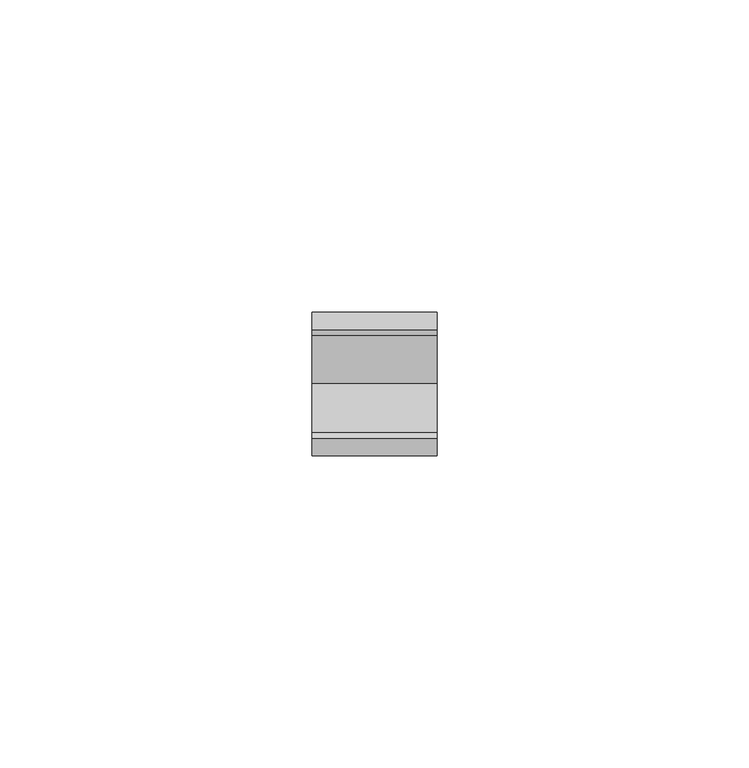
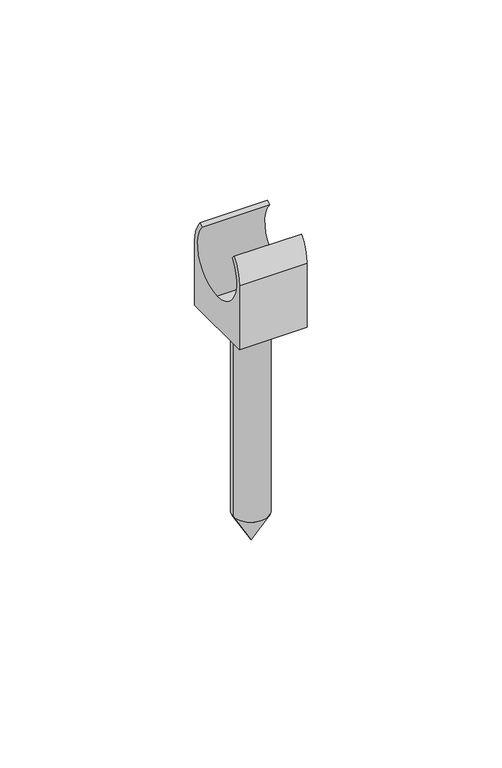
"""IFC4 building model written with IfcOpenShell, lengths in millimetres: cable carrier fitting geometry, Держатель с защелкой и дюбелем CT : CTA10D-CT20-K41-100."""

import ifcopenshell
import ifcopenshell.guid

model = None  # the IFC model being written
_history = None  # IfcOwnerHistory: only IFC2X3 demands one
_inside = {}  # id of a spatial element -> (the spatial element, [elements in it])
_under = {}  # id of a project, library or spatial element -> (it, [spatial elements below it])
_declared = {}  # id of a project -> (the project, [libraries it declares])
_typed = {}  # id of a type object -> (the type object, [elements of that type])
_made_of = {}  # id of a material, layer set ... -> (it, [elements and type objects made of it])


def new_model(schema):
    """Start an empty IFC model of exactly this schema.

    Asked for "IFC4X3", IfcOpenShell would pick the latest addendum, in which some entities
    have other attributes; the version numbers below select the first issue.
    IFC2X3 requires an IfcOwnerHistory on every rooted entity: one is made here for all.
    """
    global model, _history
    if schema == "IFC4X3":
        model = ifcopenshell.file(schema_version=(4, 3, 0, 0))
    else:
        model = ifcopenshell.file(schema=schema)
    _inside.clear()
    _under.clear()
    _declared.clear()
    _typed.clear()
    _made_of.clear()
    _history = None
    if model.schema == "IFC2X3":
        org = make("IfcOrganization", Name="unknown")
        user = make(
            "IfcPersonAndOrganization",
            ThePerson=make("IfcPerson", FamilyName="unknown"),
            TheOrganization=org,
        )
        app = make(
            "IfcApplication",
            ApplicationDeveloper=org,
            Version="unknown",
            ApplicationFullName="unknown",
            ApplicationIdentifier="unknown",
        )
        _history = make(
            "IfcOwnerHistory",
            OwningUser=user,
            OwningApplication=app,
            ChangeAction="ADDED",
            CreationDate=0,
        )
    return model


def make(cls, **values):
    """One entity of the class cls with the attributes given. An attribute that is None is left unset."""
    return model.create_entity(
        cls, **{name: value for name, value in values.items() if value is not None}
    )


def rooted(cls, **values):
    """An entity with a GlobalId (a new one), such as an element, a storey or a relation."""
    return make(cls, GlobalId=ifcopenshell.guid.new(), OwnerHistory=_history, **values)


def si_unit(unit_type, name, prefix=None):
    """IfcSIUnit, for example si_unit("LENGTHUNIT", "METRE", prefix="MILLI")."""
    return make("IfcSIUnit", UnitType=unit_type, Prefix=prefix, Name=name)


def assignment(units):
    """IfcUnitAssignment: the units of a project."""
    return None if units is None else make("IfcUnitAssignment", Units=units)


def point(xyz):
    """IfcCartesianPoint."""
    return None if xyz is None else make("IfcCartesianPoint", Coordinates=xyz)


def direction(xyz):
    """IfcDirection."""
    return None if xyz is None else make("IfcDirection", DirectionRatios=xyz)


def frame(location, z_axis=None, x_axis=None):
    """IfcAxis2Placement3D, a coordinate frame: its origin and axes. An axis left out is left unset."""
    return make(
        "IfcAxis2Placement3D",
        Location=point(location),
        Axis=direction(z_axis),
        RefDirection=direction(x_axis),
    )


def frame_2d(location, x_axis=None):
    """IfcAxis2Placement2D, a coordinate frame in the plane: its origin and x axis."""
    return make(
        "IfcAxis2Placement2D", Location=point(location), RefDirection=direction(x_axis)
    )


def origin():
    """The frame at (0, 0, 0) with its axes left unset."""
    return frame((0.0, 0.0, 0.0))


def origin_2d():
    """The frame at (0, 0) in the plane with its x axis left unset."""
    return frame_2d((0.0, 0.0))


def place(relative_to, where):
    """IfcLocalPlacement: puts the frame where relative to a parent placement (None: the world)."""
    return make(
        "IfcLocalPlacement", PlacementRelTo=relative_to, RelativePlacement=where
    )


def context(
    kind, dimensions, precision=None, world=None, true_north=None, identifier=None
):
    """IfcGeometricRepresentationContext, for example the 3D "Model" context."""
    return make(
        "IfcGeometricRepresentationContext",
        ContextIdentifier=identifier,
        ContextType=kind,
        CoordinateSpaceDimension=dimensions,
        Precision=precision,
        WorldCoordinateSystem=world,
        TrueNorth=true_north,
    )


def project(units=None, contexts=None):
    """IfcProject with its units and contexts."""
    return rooted(
        "IfcProject",
        Name="project",
        RepresentationContexts=contexts,
        UnitsInContext=assignment(units),
    )


def spatial(cls, under=None, at=None, **own):
    """A site, building, storey or space (cls), placed at a placement, below another one or the project."""
    s = rooted(cls, ObjectPlacement=at, **own)
    if under is not None:
        _under.setdefault(under.id(), (under, []))[1].append(s)
    return s


def polyline(points):
    """IfcPolyline through the points."""
    return make("IfcPolyline", Points=[point(p) for p in points])


def circle_curve(where, radius):
    """IfcCircle in the frame where."""
    return make("IfcCircle", Position=where, Radius=radius)


def trimmed(basis, trim1, trim2, sense, master):
    """IfcTrimmedCurve: the piece of a basis curve between two trims."""
    return make(
        "IfcTrimmedCurve",
        BasisCurve=basis,
        Trim1=trim1,
        Trim2=trim2,
        SenseAgreement=sense,
        MasterRepresentation=master,
    )


def segment(curve, same_sense, transition):
    """IfcCompositeCurveSegment."""
    return make(
        "IfcCompositeCurveSegment",
        Transition=transition,
        SameSense=same_sense,
        ParentCurve=curve,
    )


def composite_curve(segments, self_intersect=None):
    """IfcCompositeCurve: segments joined end to end."""
    return make("IfcCompositeCurve", Segments=segments, SelfIntersect=self_intersect)


def outline(outer, holes=None, kind="AREA"):
    """IfcArbitraryClosedProfileDef: a profile drawn as a closed curve; with holes, ...WithVoids."""
    if holes is None:
        return make("IfcArbitraryClosedProfileDef", ProfileType=kind, OuterCurve=outer)
    return make(
        "IfcArbitraryProfileDefWithVoids",
        ProfileType=kind,
        OuterCurve=outer,
        InnerCurves=holes,
    )


def extrude(swept, where, along, depth):
    """IfcExtrudedAreaSolid: the profile swept, set in the frame where, extruded along a direction by depth."""
    return make(
        "IfcExtrudedAreaSolid",
        SweptArea=swept,
        Position=where,
        ExtrudedDirection=direction(along),
        Depth=depth,
    )


def shape(context_of_items, identifier, shape_type, items):
    """IfcShapeRepresentation: the items that make up one representation, for example the "Body"."""
    return make(
        "IfcShapeRepresentation",
        ContextOfItems=context_of_items,
        RepresentationIdentifier=identifier,
        RepresentationType=shape_type,
        Items=items,
    )


def source(mapping_origin, context_of_items, identifier, shape_type, items):
    """IfcRepresentationMap: a shape defined once, which mapped items show again and again."""
    return make(
        "IfcRepresentationMap",
        MappingOrigin=mapping_origin,
        MappedRepresentation=shape(context_of_items, identifier, shape_type, items),
    )


def transform(
    local_origin,
    x_axis=None,
    y_axis=None,
    z_axis=None,
    scale=None,
    scale2=None,
    scale3=None,
    uniform=True,
):
    """IfcCartesianTransformationOperator3D, or its non-uniform kind. x_axis, y_axis, z_axis: its Axis1, 2, 3."""
    if uniform:
        return make(
            "IfcCartesianTransformationOperator3D",
            Axis1=direction(x_axis),
            Axis2=direction(y_axis),
            LocalOrigin=point(local_origin),
            Scale=scale,
            Axis3=direction(z_axis),
        )
    return make(
        "IfcCartesianTransformationOperator3DnonUniform",
        Axis1=direction(x_axis),
        Axis2=direction(y_axis),
        LocalOrigin=point(local_origin),
        Scale=scale,
        Axis3=direction(z_axis),
        Scale2=scale2,
        Scale3=scale3,
    )


def mapped(mapping_source, mapping_target):
    """IfcMappedItem: shows the shape of a source again, moved by a transform."""
    return make(
        "IfcMappedItem", MappingSource=mapping_source, MappingTarget=mapping_target
    )


def made_of(thing, what):
    """Note that an element or type object is made of a material, layer set ...; save() writes the relation."""
    if what is not None:
        _made_of.setdefault(what.id(), (what, []))[1].append(thing)
    return thing


def element(
    cls,
    number,
    at=None,
    inside=None,
    cuts=None,
    type_object=None,
    material=None,
    context=None,
    identifier="Body",
    shape_type=None,
    held_by="IfcProductDefinitionShape",
    body=None,
    shapes=None,
    **own,
):
    """One element of the class cls, such as IfcWall. Its Tag is "e" and its number.

    at: its placement. inside: the storey or other place that contains it. cuts: it is an
    opening in that element (IfcRelVoidsElement). A single representation is given by context,
    identifier, shape_type and body (its items); several are given by shapes. held_by: the class
    of the entity that holds the representations. save() writes the other relations.
    """
    e = rooted(cls, Tag="e%d" % number, ObjectPlacement=at, **own)
    if body is not None:
        shapes = [shape(context, identifier, shape_type, body)]
    if shapes is not None:
        e.Representation = make(held_by, Representations=shapes)
    if inside is not None:
        _inside.setdefault(inside.id(), (inside, []))[1].append(e)
    if cuts is not None:
        rooted(
            "IfcRelVoidsElement", RelatingBuildingElement=cuts, RelatedOpeningElement=e
        )
    if type_object is not None:
        _typed.setdefault(type_object.id(), (type_object, []))[1].append(e)
    return made_of(e, material)


def aggregate(whole, parts):
    """IfcRelAggregates: a whole, such as a stair, and the parts it consists of."""
    return rooted("IfcRelAggregates", RelatingObject=whole, RelatedObjects=parts)


def save(model, path):
    """Write the relations noted so far, then the file.

    IfcRelAggregates (storeys below a building ...), IfcRelContainedInSpatialStructure (elements
    in a storey), IfcRelDefinesByType, IfcRelAssociatesMaterial and IfcRelDeclares: one each for
    every whole, place, type object, material and project.
    """
    for whole, parts in _under.values():
        aggregate(whole, parts)
    for where, things in _inside.values():
        rooted(
            "IfcRelContainedInSpatialStructure",
            RelatedElements=things,
            RelatingStructure=where,
        )
    for kind, things in _typed.values():
        rooted("IfcRelDefinesByType", RelatedObjects=things, RelatingType=kind)
    for what, things in _made_of.values():
        rooted("IfcRelAssociatesMaterial", RelatedObjects=things, RelatingMaterial=what)
    for by, libraries in _declared.values():
        rooted("IfcRelDeclares", RelatingContext=by, RelatedDefinitions=libraries)
    model.write(path)


def plane_surface(at):
    """IfcPlane: the flat surface through the origin of the frame at, square to its z axis."""
    return make("IfcPlane", Position=at)


def cylinder_surface(at, radius):
    """IfcCylindricalSurface: all points at the distance radius from the z axis of the frame at."""
    return make("IfcCylindricalSurface", Position=at, Radius=radius)


def revolved_surface(curve, axis_point, axis_direction):
    """IfcSurfaceOfRevolution: the curve turned about the line through axis_point along axis_direction."""
    return make(
        "IfcSurfaceOfRevolution",
        SweptCurve=make("IfcArbitraryOpenProfileDef", ProfileType="CURVE", Curve=curve),
        AxisPosition=make("IfcAxis1Placement", Location=point(axis_point), Axis=direction(axis_direction)),
    )


def advanced_brep(points, edges, surfaces, faces):
    """IfcAdvancedBrep: a solid bounded by faces that lie on surfaces and meet in shared edges.

    An edge is (start, end): straight between two places in points (the first is 0);
    or (start, end, curve); or (start, end, curve, False) where it runs against its curve.
    A face is (place in surfaces, loops), or (place, loops, False) where it looks against
    its surface's normal. A loop lists edges by number (the first is 1), with a minus sign
    where the edge is run from its end to its start. The first loop is the outer one.
    """
    corners = [point(p) for p in points]
    vertices = [make("IfcVertexPoint", VertexGeometry=c) for c in corners]
    made = []
    for start, end, *more in edges:
        made.append(
            make(
                "IfcEdgeCurve",
                EdgeStart=vertices[start],
                EdgeEnd=vertices[end],
                EdgeGeometry=more[0] if more else make("IfcPolyline", Points=[corners[start], corners[end]]),
                SameSense=more[1] if len(more) > 1 else True,
            )
        )
    hull = []
    for where, loops, *sense in faces:
        bounds = []
        for j, loop in enumerate(loops):
            ring = [make("IfcOrientedEdge", EdgeElement=made[abs(k) - 1], Orientation=k > 0) for k in loop]
            bounds.append(
                make(
                    "IfcFaceOuterBound" if j == 0 else "IfcFaceBound",
                    Bound=make("IfcEdgeLoop", EdgeList=ring),
                    Orientation=True,
                )
            )
        hull.append(make("IfcAdvancedFace", Bounds=bounds, FaceSurface=surfaces[where], SameSense=sense[0] if sense else True))
    return make("IfcAdvancedBrep", Outer=make("IfcClosedShell", CfsFaces=hull))


def cable_carrier_fitting_7ab8a709(model_context):
    return source(origin(), model_context, "Body", "SolidModel", [
        advanced_brep(
        [(0.0, 0.0, -20.0), (5.2073093, 0.0, -20.0), (-5.2073093, 0.0, -20.0), (-5.2073093, 0.0, -80.9806758), (5.2073093, 0.0, -80.9806758), (0.0, 0.0, -90.0)],
        [
            (0, 1),
            (1, 2, circle_curve(frame((0.0, 0.0, -20.0), z_axis=(0.0, 0.0, 1.0), x_axis=(1.0, 0.0, 0.0)), 5.2073093)),
            (2, 0),
            (2, 1, circle_curve(frame((0.0, 0.0, -20.0), z_axis=(0.0, 0.0, 1.0), x_axis=(1.0, 0.0, 0.0)), 5.2073093)),
            (3, 4, circle_curve(frame((0.0, 0.0, -80.9806758), z_axis=(0.0, 0.0, -1.0), x_axis=(1.0, 0.0, 0.0)), 5.2073093)),
            (4, 5),
            (5, 3),
            (4, 3, circle_curve(frame((0.0, 0.0, -80.9806758), z_axis=(0.0, 0.0, -1.0), x_axis=(1.0, 0.0, 0.0)), 5.2073093)),
            (1, 4),
            (3, 2),
        ],
        [
            plane_surface(frame((0.0, 0.0, -20.0), z_axis=(0.0, 0.0, 1.0), x_axis=(1.0, 0.0, 0.0))),
            revolved_surface(polyline([(0.0, 0.0, -90.0), (5.2073093, 0.0, -80.9806758)]), (0.0, 0.0, 2194.3150031), (0.0, 0.0, 1.0)),
            cylinder_surface(frame((0.0, 0.0, 2194.3150031), z_axis=(0.0, 0.0, 1.0), x_axis=(1.0, 0.0, 0.0)), 5.2073093),
        ],
        [
            (0, [[1, 2, 3]]),
            (0, [[-3, 4, -1]]),
            (1, [[5, 6, 7]]),
            (1, [[8, -7, -6]]),
            (2, [[-2, 9, -5, 10]]),
            (2, [[-4, -10, -8, -9]]),
        ],
    ),
        extrude(outline(composite_curve([segment(trimmed(circle_curve(origin_2d(), 10.2408834), [point((0.0, -10.2408834))], [point((7.8243712, 6.6071862))], True, "CARTESIAN"), True, "CONTINUOUS"), segment(polyline([(7.8243712, 6.6071862), (8.7175144, 7.5003295)]), True, "CONTINUOUS"), segment(trimmed(circle_curve(origin_2d(), 11.5), [point((8.7175144, 7.5003295))], [point((11.5, 0.0))], False, "CARTESIAN"), True, "CONTINUOUS"), segment(polyline([(11.5, 0.0), (11.5, -20.0), (-11.5, -20.0), (-11.5, 0.0)]), True, "CONTINUOUS"), segment(trimmed(circle_curve(origin_2d(), 11.5), [point((-11.5, 0.0))], [point((-8.7175144, 7.5003295))], False, "CARTESIAN"), True, "CONTINUOUS"), segment(polyline([(-8.7175144, 7.5003295), (-7.8243712, 6.6071862)]), True, "CONTINUOUS"), segment(trimmed(circle_curve(origin_2d(), 10.2408834), [point((-7.8243712, 6.6071862))], [point((0.0, -10.2408834))], True, "CARTESIAN"), True, "CONTINUOUS")], self_intersect=False)), frame((-10.0, 0.0, 0.0), z_axis=(1.0, 0.0, 0.0), x_axis=(0.0, 1.0, 0.0)), (0.0, 0.0, 1.0), 20.0),
    ])


if __name__ == "__main__":
    model = new_model("IFC4")
    model_context = context("Model", 3, world=origin())
    ifc_project = project(units=[si_unit("LENGTHUNIT", "METRE", prefix="MILLI")], contexts=[model_context])
    site = spatial("IfcSite", under=ifc_project)
    building = spatial("IfcBuilding", under=site)
    placement = place(None, origin())
    cable_carrier_fitting_shape = cable_carrier_fitting_7ab8a709(model_context)
    element("IfcCableCarrierFitting", 1, ObjectType="Держатель с защелкой и дюбелем CT : CTA10D-CT20-K41-100", at=placement, inside=building, context=model_context, shape_type="MappedRepresentation", body=[
        mapped(cable_carrier_fitting_shape, transform((0.0, 0.0, 0.0), x_axis=(1.0, 0.0, 0.0), y_axis=(0.0, 1.0, 0.0), z_axis=(0.0, 0.0, 1.0))),
    ])
    save(model, "model.ifc")
